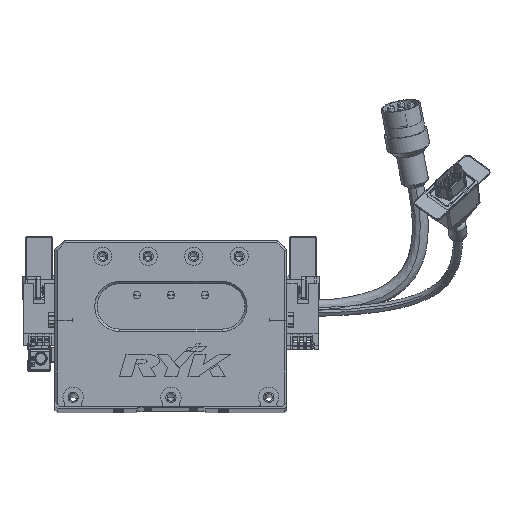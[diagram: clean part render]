
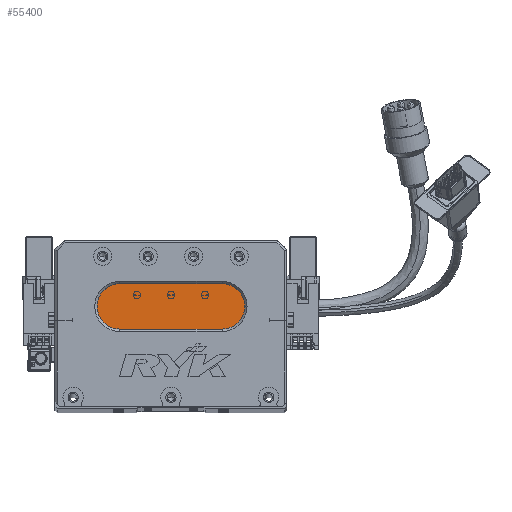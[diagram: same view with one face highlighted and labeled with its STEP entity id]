
A CAD part, top view. The second image highlights one B-rep face of the part: STEP entity #55400.
In plain terms, the highlighted planar face has unit normal (0, 0, 1) as drawn and (0, 0, -1) by its records, which use the part's own axes.
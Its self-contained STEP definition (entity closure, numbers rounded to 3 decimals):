
#106 = VERTEX_POINT ( 'NONE', #21782 ) ;
#4869 = CARTESIAN_POINT ( 'NONE',  ( 73.5, 44., 13. ) ) ;
#7367 = CARTESIAN_POINT ( 'NONE',  ( 73.5, 34., 13. ) ) ;
#8865 = CARTESIAN_POINT ( 'NONE',  ( 73.5, 34., 13. ) ) ;
#9497 = ORIENTED_EDGE ( 'NONE', *, *, #43153, .T. ) ;
#10100 = EDGE_CURVE ( 'NONE', #45077, #35458, #24890, .T. ) ;
#12365 = ORIENTED_EDGE ( 'NONE', *, *, #25164, .T. ) ;
#13594 = DIRECTION ( 'NONE',  ( 0., 0., -1. ) ) ;
#14401 = CARTESIAN_POINT ( 'NONE',  ( 18.5, 44., 13. ) ) ;
#14755 = CARTESIAN_POINT ( 'NONE',  ( 73.5, 54., 13. ) ) ;
#18711 = DIRECTION ( 'NONE',  ( -1., 0., 0. ) ) ;
#21536 = PLANE ( 'NONE',  #24559 ) ;
#21782 = CARTESIAN_POINT ( 'NONE',  ( 28.5, 54., 13. ) ) ;
#23488 = DIRECTION ( 'NONE',  ( -1., 0., 0. ) ) ;
#24559 = AXIS2_PLACEMENT_3D ( 'NONE', #47855, #53238, #26451 ) ;
#24890 = CIRCLE ( 'NONE', #51557, 10. ) ;
#25164 = EDGE_CURVE ( 'NONE', #106, #45077, #30415, .T. ) ;
#26451 = DIRECTION ( 'NONE',  ( -1., 0., 0. ) ) ;
#30415 = LINE ( 'NONE', #43125, #58109 ) ;
#35458 = VERTEX_POINT ( 'NONE', #8865 ) ;
#35675 = EDGE_LOOP ( 'NONE', ( #58979, #9497, #41308, #44002, #12365 ) ) ;
#37640 = FACE_OUTER_BOUND ( 'NONE', #35675, .T. ) ;
#38030 = AXIS2_PLACEMENT_3D ( 'NONE', #66802, #13594, #18711 ) ;
#40583 = DIRECTION ( 'NONE',  ( 0., 0., -1. ) ) ;
#41308 = ORIENTED_EDGE ( 'NONE', *, *, #55595, .T. ) ;
#41970 = VERTEX_POINT ( 'NONE', #57630 ) ;
#43125 = CARTESIAN_POINT ( 'NONE',  ( 73.5, 54., 13. ) ) ;
#43153 = EDGE_CURVE ( 'NONE', #35458, #41970, #66167, .T. ) ;
#43261 = VERTEX_POINT ( 'NONE', #14401 ) ;
#43335 = EDGE_CURVE ( 'NONE', #43261, #106, #43461, .T. ) ;
#43461 = CIRCLE ( 'NONE', #66235, 10. ) ;
#44002 = ORIENTED_EDGE ( 'NONE', *, *, #43335, .T. ) ;
#45077 = VERTEX_POINT ( 'NONE', #14755 ) ;
#46033 = DIRECTION ( 'NONE',  ( -1., 0., 0. ) ) ;
#47855 = CARTESIAN_POINT ( 'NONE',  ( 73.5, 44., 13. ) ) ;
#48312 = DIRECTION ( 'NONE',  ( 1., 0., 0. ) ) ;
#51557 = AXIS2_PLACEMENT_3D ( 'NONE', #4869, #58568, #69357 ) ;
#52131 = CARTESIAN_POINT ( 'NONE',  ( 28.5, 44., 13. ) ) ;
#53238 = DIRECTION ( 'NONE',  ( 0., 0., -1. ) ) ;
#55400 = ADVANCED_FACE ( 'NONE', ( #37640 ), #21536, .T. ) ;
#55595 = EDGE_CURVE ( 'NONE', #41970, #43261, #63647, .T. ) ;
#57630 = CARTESIAN_POINT ( 'NONE',  ( 28.5, 34., 13. ) ) ;
#57723 = VECTOR ( 'NONE', #23488, 1000. ) ;
#58109 = VECTOR ( 'NONE', #48312, 1000. ) ;
#58568 = DIRECTION ( 'NONE',  ( 0., 0., -1. ) ) ;
#58979 = ORIENTED_EDGE ( 'NONE', *, *, #10100, .T. ) ;
#63647 = CIRCLE ( 'NONE', #38030, 10. ) ;
#66167 = LINE ( 'NONE', #7367, #57723 ) ;
#66235 = AXIS2_PLACEMENT_3D ( 'NONE', #52131, #40583, #46033 ) ;
#66802 = CARTESIAN_POINT ( 'NONE',  ( 28.5, 44., 13. ) ) ;
#69357 = DIRECTION ( 'NONE',  ( -1., 0., 0. ) ) ;
